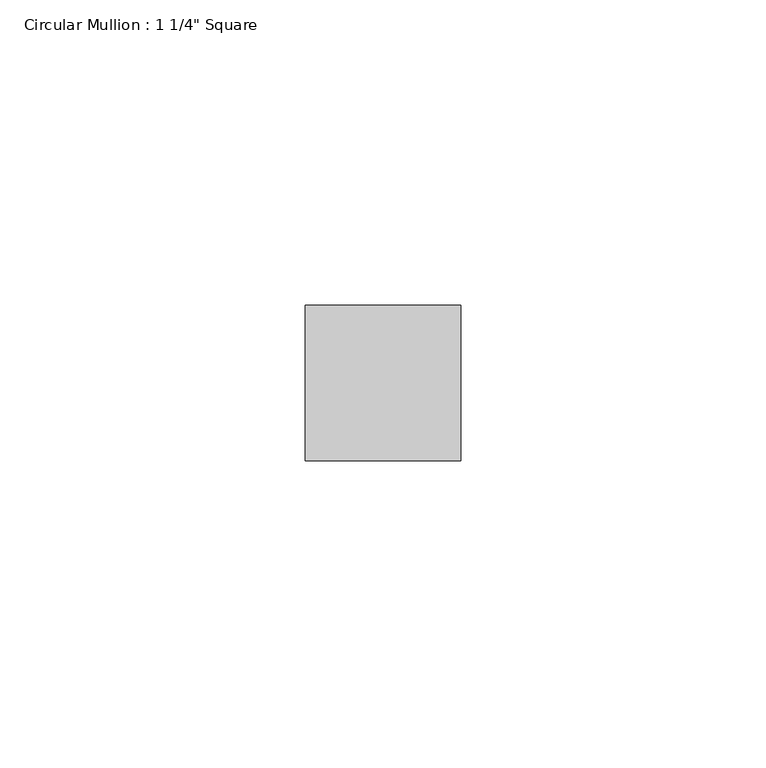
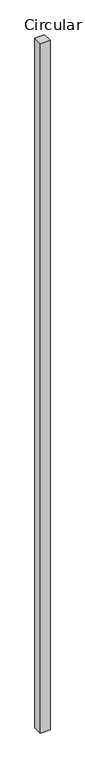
"""IFC4 building model written with IfcOpenShell, lengths in millimetres: member geometry."""

from ifc_helpers import new_model, si_unit, frame, origin, place, context, project, spatial, polyline, outline, extrude, source, transform, mapped, element, save


def member_10d6b71f(model_context):
    return source(origin(), model_context, "Body", "SweptSolid", [
        extrude(outline(polyline([(0.0, 12.7), (0.0, -12.7), (-25.4, -12.7), (-25.4, 12.7), (0.0, 12.7)])), frame((0.0, 0.0, -1930.5763783), z_axis=(0.0, 0.0, 1.0), x_axis=(1.0, 0.0, 0.0)), (0.0, 0.0, 1.0), 1930.5763783),
    ])


if __name__ == "__main__":
    model = new_model("IFC4")
    model_context = context("Model", 3, world=origin())
    ifc_project = project(units=[si_unit("LENGTHUNIT", "METRE", prefix="MILLI")], contexts=[model_context])
    site = spatial("IfcSite", under=ifc_project)
    building = spatial("IfcBuilding", under=site)
    placement = place(None, origin())
    member_shape = member_10d6b71f(model_context)
    element("IfcMember", 1, ObjectType="Circular Mullion : 1 1/4\" Square", at=placement, inside=building, context=model_context, shape_type="MappedRepresentation", body=[
        mapped(member_shape, transform((0.0, 0.0, 0.0), x_axis=(1.0, 0.0, 0.0), y_axis=(0.0, 1.0, 0.0), z_axis=(0.0, 0.0, 1.0))),
    ])
    save(model, "model.ifc")
